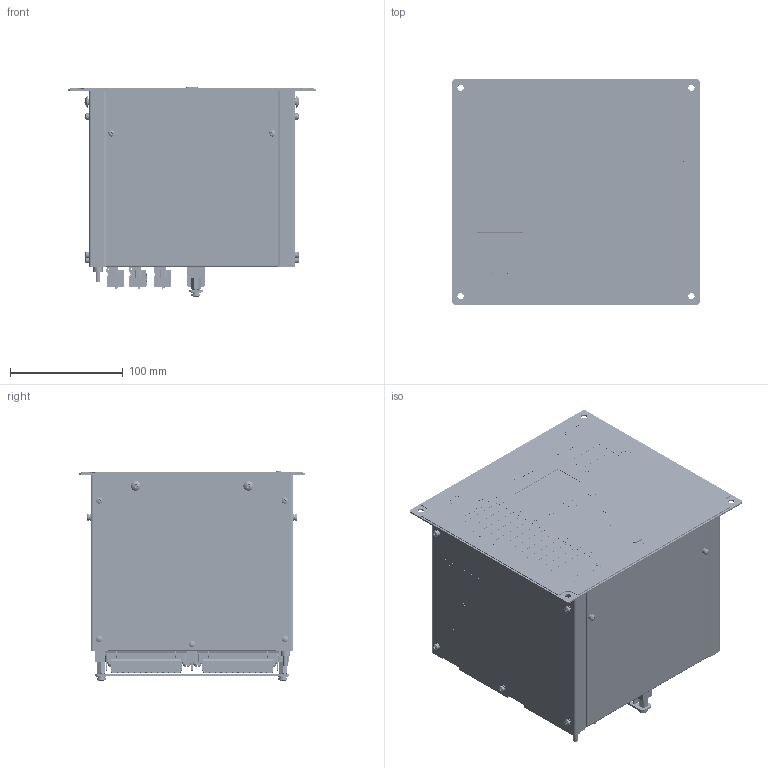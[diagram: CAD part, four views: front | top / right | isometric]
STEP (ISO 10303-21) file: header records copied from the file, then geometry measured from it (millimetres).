
FILE_DESCRIPTION(('STEP AP214'), '1');
FILE_NAME('ﾒﾐﾁﾍ.656122.001-12_15 - ﾊﾈﾒ-ﾐ', '', ('UNSPECIFIED'), ('UNSPECIFIED'), 'C3D Converter', 'C3D Toolkit', '');
FILE_SCHEMA(('AUTOMOTIVE_DESIGN { 1 0 10303 214 3 1 1}'));
Length unit declared in the file: millimetre
Products named in the file (67): ТРБН.656122.001-12_15; ТРБН.741128.001; ТРБН.745222.001; ТРБН.301732.001; ТРБН.745422.001; ТРБН.301261.001-10; ТРБН.745512.001-10; ТРБН.434416.011; ТРБН.754342.001; ТРБН.754342.002; ТРБН.434416.012; ТРБН.754342.002-01; ТРБН.434416.013; ТРБН.754342.002-02; ТРБН.434416.014; ТРБН.754342.001-01; ТРБН.754342.002-05; ТРБН.434416.015; ТРБН.754342.002-06; ТРБН.741134.002; ТРБН.754312.001; ТРБН.754342.006; 45H-08P; 45H-08P-01; 691317510004; 6913175100xx_PIN; 6913175100xx_INSERT; -01; 2EDGRHM-5.08-24P-14-00A(H); ТРБН.434416.016; ТРБН.754342.002-07; ТРБН.434416.017; ТРБН.754342.002-08
Assembly tree (124 placements, depth 4):
  ТРБН.656122.001-12_15
    (unnamed)
      ТРБН.741128.001
      ТРБН.745222.001  x2
    ТРБН.301732.001  x2
      ТРБН.745422.001
      (unnamed)
      (unnamed)
    ТРБН.301261.001-10
      ТРБН.745512.001-10
      (unnamed)  x2
      (unnamed)
    (unnamed)
    (unnamed)
    (unnamed)
    (unnamed)
    (unnamed)  x10
    (unnamed)
    (unnamed)  x3
    (unnamed)  x12
    (unnamed)  x2
    (unnamed)  x2
    (unnamed)  x4
    (unnamed)
    (unnamed)
    ТРБН.434416.011
      (unnamed)
      ТРБН.754342.001
      ТРБН.754342.002
    ТРБН.434416.012
      (unnamed)
      ТРБН.754342.001
      ТРБН.754342.002-01
    ТРБН.434416.013
      (unnamed)
      ТРБН.754342.001
      ТРБН.754342.002-02
    ТРБН.434416.014
      (unnamed)
      ТРБН.754342.001-01
      ТРБН.754342.002-05
    ТРБН.434416.015
      (unnamed)
      ТРБН.754342.001-01
      ТРБН.754342.002-06
    ТРБН.741134.002
    ТРБН.754312.001
    (unnamed)
    (unnamed)
    (unnamed)
    (unnamed)
    ТРБН.754342.006
    (unnamed)
    (unnamed)
    (unnamed)  x10
    (unnamed)  x2
    (unnamed)
    (unnamed)
      45H-08P
      45H-08P-01
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Bounding box: 220 x 200 x 187.02 mm (x, y, z)
Volume: 447715 mm3; surface area: 652855.5 mm2
Topology: 236 solids, 254 shells, 35539 faces, 100242 edges, 66163 vertices
Faces by surface type: plane 21314, cylinder 10779, extrusion 2508, torus 496, bspline 224, cone 197, sphere 21
Full cylindrical faces by diameter (mm): 0.405 x8, 0.482 x8, 0.804 x1, 1.371 x1, 1.6 x8, 1.771 x1, 1.8 x14, 2.459 x6, 2.5 x14, 2.6 x12, 2.75 x12, 3 x14, 3.2 x22, 3.242 x3, 3.3 x60, 3.301 x16, 3.4 x8, 3.5 x70, 3.85 x14, 4 x68, 4.2 x6, 4.22 x6, 4.3 x2, 4.5 x9, 5 x6, 5.6 x20, 5.7 x4, 6 x14, 6.35 x6, 6.8 x1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
Entity records: 1174102 total; most frequent: CARTESIAN_POINT 226334, ORIENTED_EDGE 158178, DIRECTION 141938, EDGE_CURVE 79089, VECTOR 58366, LINE 55858, VERTEX_POINT 52581, AXIS2_PLACEMENT_3D 41786
